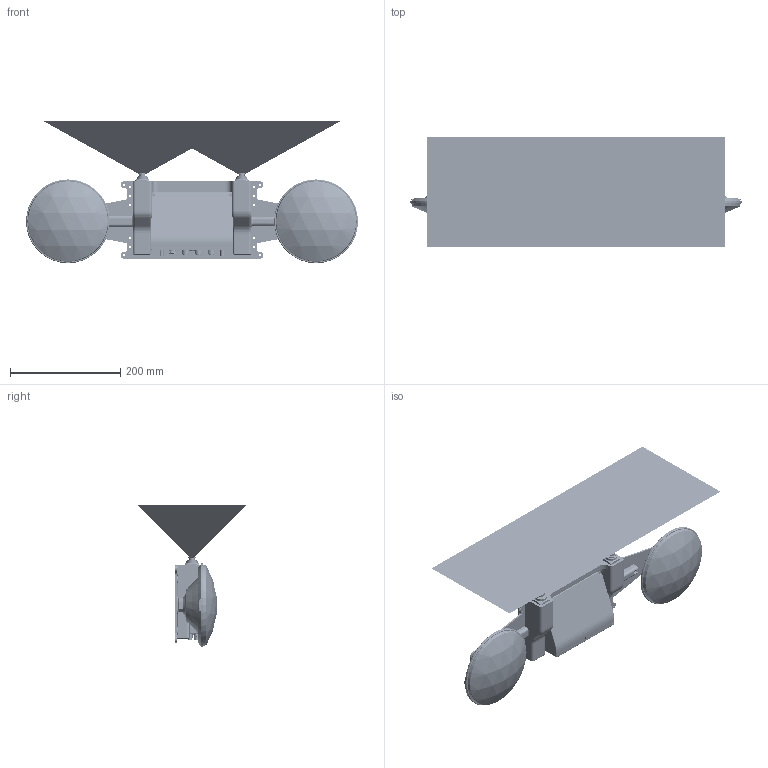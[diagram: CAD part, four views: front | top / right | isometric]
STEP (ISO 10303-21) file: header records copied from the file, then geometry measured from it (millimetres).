
FILE_DESCRIPTION(/* description */ (''),/* implementation_level */ '2;1');
FILE_NAME(/* name */ 'PBx-A1_EVK_Assembly_with_coordinate_system_reduced.step',/* time_stamp */ '2026-06-10T18:04:28+02:00',/* author */ (''),/* organization */ (''),/* preprocessor_version */ 'ST-DEVELOPER v20.1',/* originating_system */ 'Autodesk Translation Framework v15.8.0.0',/* authorisation */ '');
FILE_SCHEMA (('AUTOMOTIVE_DESIGN { 1 0 10303 214 3 1 1 }'));
Products named in the file (1173): PBx-A1_EVK_Assembly; PBx-A1_Stereo_Cam_Assembly; PBx-A1_Stereo_Beam; L2F-H_SW0001; L2F-H_SW0001_1; FoV_h122_v90_f22; PBx-A1_EVK_Base_Plate; HX-CSX627A; HX-CSX627A_1; TNCMCXKKBODY_SLDASM__; TNCMCXKK_____________; TNCMCXKK1; F097001__________; HXGS485ALJ04_V0R1__; HXGS485ALJ05_V0R1__; HXGS288ALJ01_V0R4__; HXGS485ALJ03_V0R2__; O0824; 0HXGS288ALJ02_V1R320190514; Assembly_PBx-A1; CSRO+P-BOX-B; DesignRootModel; uid__4; Submodel-ACX_RESC1005X55N_3093030905_part_ACx_RESC1005X55N; Submodel-noModelForPart_ACX_RESC1005X55N_3093030905; placementOutline; placementOutline_1; Submodel-COCE+27P100V1S_1357022317_part_C0402-CAPC1005X60N; Submodel-noModelForPart_COCE+27P100V1S_1357022317; placementOutline_2; Submodel-ACX_DIOM5226X100N_A-K_2987303643_part_ACx_DIOM5226X100N_A-K; Submodel-noModelForPart_ACX_DIOM5226X100N_A-K_2987303643; placementOutline_3; placementOutline_4; Submodel-RET1+3.24K16SMT2_3268861845_part_R0402-RESC1005X40N; Submodel-noModelForPart_RET1+3.24K16SMT2_3268861845; placementOutline_5; Submodel-COCE+8P50V1S_4019567180_part_C0402-CAPC1005X60N; Submodel-noModelForPart_COCE+8P50V1S_4019567180; placementOutline_6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
Assembly tree (1757 placements, depth 7):
  PBx-A1_EVK_Assembly
    PBx-A1_Stereo_Cam_Assembly
      PBx-A1_Stereo_Beam
      L2F-H_SW0001
        FoV_h122_v90_f22
      L2F-H_SW0001_1
        FoV_h122_v90_f22
    PBx-A1_EVK_Base_Plate
    HX-CSX627A
      TNCMCXKKBODY_SLDASM__
      TNCMCXKK_____________
      TNCMCXKK1
      F097001__________
      HXGS485ALJ04_V0R1__
      HXGS485ALJ05_V0R1__
      HXGS288ALJ01_V0R4__
      HXGS485ALJ03_V0R2__
      O0824
      0HXGS288ALJ02_V1R320190514
    PBx-A1_EVK_Antenna_Arm  x2
    PBx-A1_EVK_Antenna_Bolt  x2
    HX-CSX627A_1
      TNCMCXKKBODY_SLDASM__
      TNCMCXKK_____________
      TNCMCXKK1
      F097001__________
      HXGS485ALJ04_V0R1__
      HXGS485ALJ05_V0R1__
      HXGS288ALJ01_V0R4__
      HXGS485ALJ03_V0R2__
      O0824
      0HXGS288ALJ02_V1R320190514
    Assembly_PBx-A1
      CSRO+P-BOX-B
        DesignRootModel
          uid__4
          Submodel-RET1+10K16SMT2_3466878861_part_R0402-RESC1005X40N  x10
            Submodel-noModelForPart_RET1+10K16SMT2_3466878861
              placementOutline_321
          Submodel-RET1+20K16SMT2_3466878861_part_R0402-RESC1005X40N  x3
            Submodel-noModelForPart_RET1+20K16SMT2_3466878861
              placementOutline_343
          Submodel-COCE+100N50V12S_3236137233_part_C0402-CAPC1005X60N  x11
            Submodel-noModelForPart_COCE+100N50V12S_3236137233
              placementOutline_406
          Submodel-ACX_RESC1005X55N_3093030905_part_ACx_RESC1005X55N
            Submodel-noModelForPart_ACX_RESC1005X55N_3093030905
              placementOutline
              placementOutline_1
          Submodel-RET1+2.2K16SMT2_3468297330_part_R0402-RESC1005X40N  x2
            Submodel-noModelForPart_RET1+2.2K16SMT2_3468297330
              placementOutline_280
          Submodel-RET1+100R16SMT2_1855346664_part_R0402-RESC1005X40N  x2
            Submodel-noModelForPart_RET1+100R16SMT2_1855346664
              placementOutline_328
          Submodel-RET5+0R16SMT2_3080569313_part_R0402-RESC1005X40N  x5
            Submodel-noModelForPart_RET5+0R16SMT2_3080569313
              placementOutline_301
          Submodel-RET1+49.9R16SMT2_3466878861_part_R0402-RESC1005X40N  x2
            Submodel-noModelForPart_RET1+49.9R16SMT2_3466878861
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Bounding box: 602 x 200 x 258.32 mm (x, y, z)
Volume: 5697541.6 mm3; surface area: 949966.9 mm2
Topology: 85 solids, 174 shells, 9645 faces, 25291 edges, 16071 vertices
Faces by surface type: plane 3842, cylinder 2803, bspline 1427, cone 956, torus 448, sphere 169
Full cylindrical faces by diameter (mm): 0.38 x2, 0.5 x39, 0.52 x2, 0.6 x58, 0.62 x29, 0.7 x74, 0.8 x16, 0.9 x24, 0.95 x87, 0.96 x2, 1 x25, 1.001 x2, 1.05 x5, 1.08 x37, 1.1 x111, 1.2 x8, 1.3 x29, 1.4 x15, 1.6 x15, 1.9 x2, 2 x8, 2.1 x4, 2.16 x4, 2.26 x2, 2.35 x2, 2.4 x8, 2.44 x9, 2.459 x4, 2.5 x13, 2.7 x4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
Entity records: 465942 total; most frequent: CARTESIAN_POINT 251685, DIRECTION 41358, ORIENTED_EDGE 39710, EDGE_CURVE 19855, AXIS2_PLACEMENT_3D 15639, VERTEX_POINT 12795, LINE 10080, VECTOR 10080
